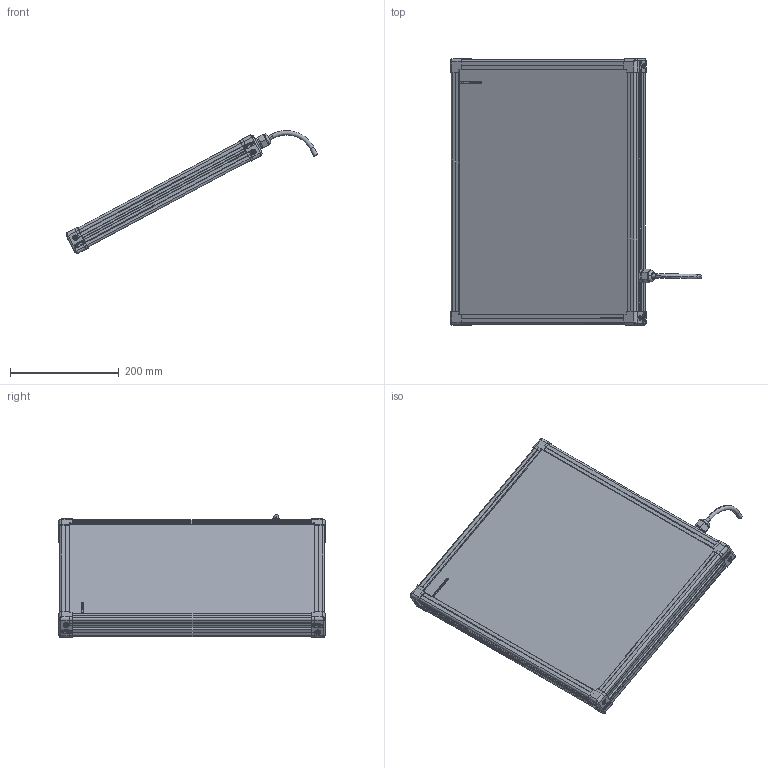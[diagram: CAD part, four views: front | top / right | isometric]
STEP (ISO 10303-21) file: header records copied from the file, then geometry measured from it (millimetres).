
FILE_DESCRIPTION (( 'STEP AP214' ), '1' );
FILE_NAME ('EFFI-BL-350-450-ZZZ 1x M12P.STEP', '2021-06-18T10:56:21', ( '' ), ( '' ), 'SwSTEP 2.0', 'SolidWorks 2021', '' );
FILE_SCHEMA (( 'AUTOMOTIVE_DESIGN' ));
Length unit declared in the file: millimetre
Products named in the file (9): M12 power_AVEC CABLE D8.1; EFFI-BL-350-450-ZZZ 1x M12P; profile Y_PERCE; Pièce13^EFFI-BL-XXX-YYY-ZZZ -1M12POWER; petite joue + vis; petite joue; 000629; profile X_PERCE
Assembly tree (13 placements, depth 3):
  EFFI-BL-350-450-ZZZ 1x M12P
    profile X_PERCE  x2
    profile Y_PERCE
    profile Y_PERCE
    Pièce13^EFFI-BL-XXX-YYY-ZZZ -1M12POWER
    petite joue + vis  x4
      petite joue
      000629
    M12 power_AVEC CABLE D8.1
Bounding box: 462.03 x 489 x 225.55 mm (x, y, z)
Volume: 6597528.8 mm3; surface area: 641895 mm2
Topology: 17 solids, 20 shells, 3578 faces, 9609 edges, 6361 vertices
Faces by surface type: plane 2380, bspline 591, cylinder 583, cone 20, torus 4
Entity records: 49711 total; most frequent: CARTESIAN_POINT 21554, ORIENTED_EDGE 6036, DIRECTION 4529, EDGE_CURVE 3020, VECTOR 2261, LINE 2261, VERTEX_POINT 2008, EDGE_LOOP 1222
